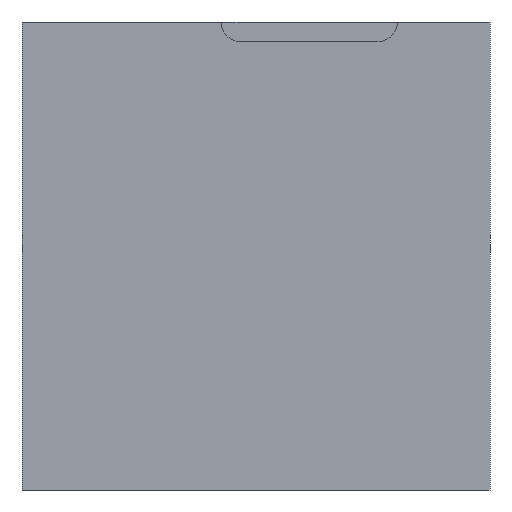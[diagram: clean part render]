
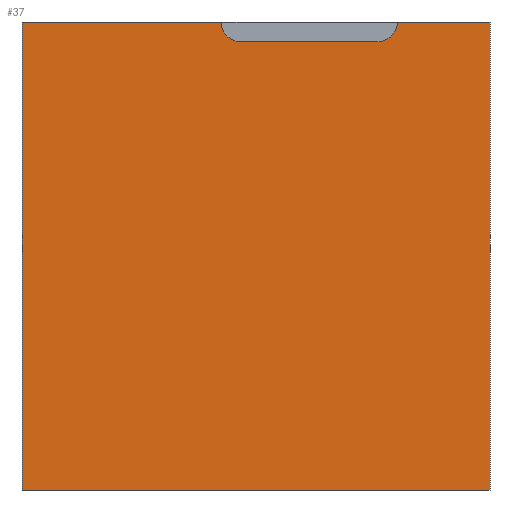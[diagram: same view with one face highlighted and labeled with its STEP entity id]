
A CAD part, left-side view. The second image highlights one B-rep face of the part: STEP entity #37.
In plain terms, the highlighted planar face has unit normal (-1, 0, 0).
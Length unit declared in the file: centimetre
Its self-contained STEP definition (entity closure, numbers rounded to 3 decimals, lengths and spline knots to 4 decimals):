
#5 = VERTEX_POINT ( 'NONE', #28 ) ;
#7 = EDGE_LOOP ( 'NONE', ( #159, #310, #157, #182, #158, #150, #265, #71 ) ) ;
#9 = VERTEX_POINT ( 'NONE', #296 ) ;
#15 = AXIS2_PLACEMENT_3D ( 'NONE', #440, #211, #25 ) ;
#25 = DIRECTION ( 'NONE',  ( 0., 0., -1. ) ) ;
#28 = CARTESIAN_POINT ( 'NONE',  ( 0., 533.0383, 958.1335 ) ) ;
#37 = ADVANCED_FACE ( 'NONE', ( #148 ), #446, .F. ) ;
#46 = CARTESIAN_POINT ( 'NONE',  ( 0., 239.3749, 1000. ) ) ;
#48 = VECTOR ( 'NONE', #349, 100. ) ;
#54 = DIRECTION ( 'NONE',  ( 0., -1., 0. ) ) ;
#58 = CARTESIAN_POINT ( 'NONE',  ( 0., 239.3749, 958.1335 ) ) ;
#71 = ORIENTED_EDGE ( 'NONE', *, *, #100, .F. ) ;
#74 = EDGE_CURVE ( 'NONE', #262, #5, #379, .T. ) ;
#92 = CARTESIAN_POINT ( 'NONE',  ( 0., 0., 0. ) ) ;
#93 = CARTESIAN_POINT ( 'NONE',  ( 0., 0., 1000. ) ) ;
#94 = CARTESIAN_POINT ( 'NONE',  ( 0., 1000., 1000. ) ) ;
#97 = AXIS2_PLACEMENT_3D ( 'NONE', #46, #277, #320 ) ;
#100 = EDGE_CURVE ( 'NONE', #449, #191, #101, .T. ) ;
#101 = LINE ( 'NONE', #280, #395 ) ;
#105 = DIRECTION ( 'NONE',  ( 0., -1., 0. ) ) ;
#108 = VERTEX_POINT ( 'NONE', #406 ) ;
#130 = CARTESIAN_POINT ( 'NONE',  ( 0., 574.9048, 1000. ) ) ;
#133 = LINE ( 'NONE', #397, #461 ) ;
#134 = CARTESIAN_POINT ( 'NONE',  ( 0., 239.3749, 958.1335 ) ) ;
#148 = FACE_OUTER_BOUND ( 'NONE', #7, .T. ) ;
#150 = ORIENTED_EDGE ( 'NONE', *, *, #391, .T. ) ;
#153 = CARTESIAN_POINT ( 'NONE',  ( 0., 1000., 1000. ) ) ;
#157 = ORIENTED_EDGE ( 'NONE', *, *, #272, .F. ) ;
#158 = ORIENTED_EDGE ( 'NONE', *, *, #193, .F. ) ;
#159 = ORIENTED_EDGE ( 'NONE', *, *, #385, .F. ) ;
#163 = DIRECTION ( 'NONE',  ( 0., -1., 0. ) ) ;
#182 = ORIENTED_EDGE ( 'NONE', *, *, #74, .F. ) ;
#191 = VERTEX_POINT ( 'NONE', #92 ) ;
#193 = EDGE_CURVE ( 'NONE', #9, #262, #241, .T. ) ;
#194 = VERTEX_POINT ( 'NONE', #270 ) ;
#211 = DIRECTION ( 'NONE',  ( -1., 0., 0. ) ) ;
#241 = LINE ( 'NONE', #94, #459 ) ;
#244 = AXIS2_PLACEMENT_3D ( 'NONE', #153, #412, #374 ) ;
#262 = VERTEX_POINT ( 'NONE', #130 ) ;
#265 = ORIENTED_EDGE ( 'NONE', *, *, #317, .T. ) ;
#270 = CARTESIAN_POINT ( 'NONE',  ( 0., 1000., 0. ) ) ;
#272 = EDGE_CURVE ( 'NONE', #5, #386, #463, .T. ) ;
#275 = EDGE_CURVE ( 'NONE', #386, #108, #309, .T. ) ;
#277 = DIRECTION ( 'NONE',  ( -1., 0., 0. ) ) ;
#280 = CARTESIAN_POINT ( 'NONE',  ( 0., 0., 1000. ) ) ;
#296 = CARTESIAN_POINT ( 'NONE',  ( 0., 1000., 1000. ) ) ;
#309 = CIRCLE ( 'NONE', #97, 41.8665 ) ;
#310 = ORIENTED_EDGE ( 'NONE', *, *, #275, .F. ) ;
#316 = LINE ( 'NONE', #327, #416 ) ;
#317 = EDGE_CURVE ( 'NONE', #194, #191, #462, .T. ) ;
#320 = DIRECTION ( 'NONE',  ( 0., 0., -1. ) ) ;
#327 = CARTESIAN_POINT ( 'NONE',  ( 0., 1000., 1000. ) ) ;
#349 = DIRECTION ( 'NONE',  ( 0., -1., 0. ) ) ;
#374 = DIRECTION ( 'NONE',  ( 0., 0., -1. ) ) ;
#379 = CIRCLE ( 'NONE', #15, 41.8665 ) ;
#381 = VECTOR ( 'NONE', #163, 100. ) ;
#385 = EDGE_CURVE ( 'NONE', #108, #449, #133, .T. ) ;
#386 = VERTEX_POINT ( 'NONE', #58 ) ;
#391 = EDGE_CURVE ( 'NONE', #9, #194, #316, .T. ) ;
#395 = VECTOR ( 'NONE', #474, 100. ) ;
#397 = CARTESIAN_POINT ( 'NONE',  ( 0., 1000., 1000. ) ) ;
#406 = CARTESIAN_POINT ( 'NONE',  ( 0., 197.5084, 1000. ) ) ;
#412 = DIRECTION ( 'NONE',  ( 1., 0., 0. ) ) ;
#416 = VECTOR ( 'NONE', #443, 100. ) ;
#427 = CARTESIAN_POINT ( 'NONE',  ( 0., 1000., 0. ) ) ;
#440 = CARTESIAN_POINT ( 'NONE',  ( 0., 533.0383, 1000. ) ) ;
#443 = DIRECTION ( 'NONE',  ( 0., 0., -1. ) ) ;
#446 = PLANE ( 'NONE',  #244 ) ;
#449 = VERTEX_POINT ( 'NONE', #93 ) ;
#459 = VECTOR ( 'NONE', #54, 100. ) ;
#461 = VECTOR ( 'NONE', #105, 100. ) ;
#462 = LINE ( 'NONE', #427, #48 ) ;
#463 = LINE ( 'NONE', #134, #381 ) ;
#474 = DIRECTION ( 'NONE',  ( 0., 0., -1. ) ) ;
